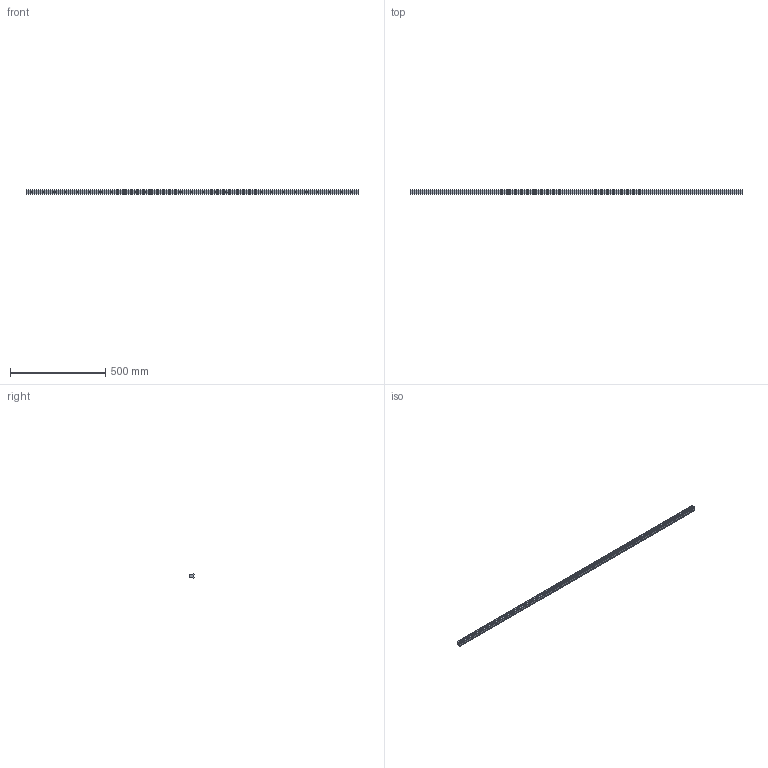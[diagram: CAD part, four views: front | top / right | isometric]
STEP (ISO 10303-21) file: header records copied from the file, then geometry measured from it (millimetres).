
FILE_DESCRIPTION (( 'STEP AP203' ), '1' );
FILE_NAME ('L1018.25R-1740.step', '2023-08-06T10:38:40', ( '' ), ( '' ), 'SwSTEP 2.0', 'SolidWorks 2019', '' );
FILE_SCHEMA (( 'CONFIG_CONTROL_DESIGN' ));
Length unit declared in the file: millimetre
Products named in the file (1): L1018.25R-1740
Bounding box: 1740 x 21.8 x 25 mm (x, y, z)
Volume: 723645.3 mm3; surface area: 173627.1 mm2
Topology: 1 solids, 1 shells, 290 faces, 661 edges, 373 vertices
Faces by surface type: cylinder 119, cone 116, plane 55
Entity records: 7784 total; most frequent: DIRECTION 1481, CARTESIAN_POINT 1267, ORIENTED_EDGE 1206, EDGE_CURVE 603, AXIS2_PLACEMENT_3D 587, VERTEX_POINT 373, EDGE_LOOP 348, VECTOR 307
